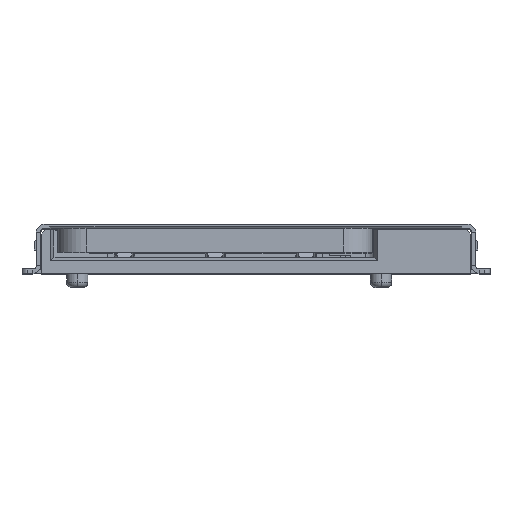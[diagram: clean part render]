
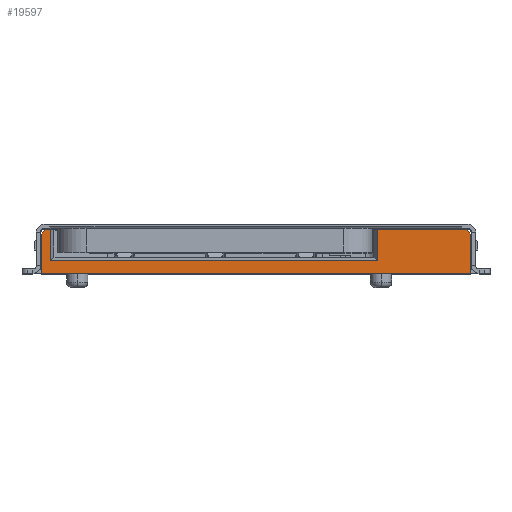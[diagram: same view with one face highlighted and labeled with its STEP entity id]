
A CAD part, top view. The second image highlights one B-rep face of the part: STEP entity #19597.
In plain terms, the highlighted planar face has unit normal (0, 0, 1).
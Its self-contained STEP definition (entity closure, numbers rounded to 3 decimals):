
#4512=DIRECTION('',(0.,1.,0.));
#4513=VECTOR('',#4512,1.097);
#4514=CARTESIAN_POINT('',(3.022,-0.463,6.75));
#4515=LINE('',#4514,#4513);
#4566=DIRECTION('',(-1.,0.,0.));
#4567=VECTOR('',#4566,12.);
#4568=CARTESIAN_POINT('',(3.022,-0.463,6.75));
#4569=LINE('',#4568,#4567);
#4570=DIRECTION('',(0.,1.,0.));
#4571=VECTOR('',#4570,1.097);
#4572=CARTESIAN_POINT('',(-8.978,-0.463,6.75));
#4573=LINE('',#4572,#4571);
#4574=DIRECTION('',(0.713,0.702,0.));
#4575=VECTOR('',#4574,0.175);
#4576=CARTESIAN_POINT('',(-8.978,0.634,6.75));
#4577=LINE('',#4576,#4575);
#4578=DIRECTION('',(1.,0.,0.));
#4579=VECTOR('',#4578,0.125);
#4580=CARTESIAN_POINT('',(-8.853,0.757,6.75));
#4581=LINE('',#4580,#4579);
#4582=DIRECTION('',(0.,-1.,0.));
#4583=VECTOR('',#4582,0.87);
#4584=CARTESIAN_POINT('',(-8.728,0.757,
6.75));
#4585=LINE('',#4584,#4583);
#4586=DIRECTION('',(1.,0.,0.));
#4587=VECTOR('',#4586,9.15);
#4588=CARTESIAN_POINT('',(-8.728,-0.113,
6.75));
#4589=LINE('',#4588,#4587);
#4590=DIRECTION('',(0.,1.,0.));
#4591=VECTOR('',#4590,0.87);
#4592=CARTESIAN_POINT('',(0.422,-0.113,
6.75));
#4593=LINE('',#4592,#4591);
#4594=DIRECTION('',(0.713,-0.702,0.));
#4595=VECTOR('',#4594,0.175);
#4596=CARTESIAN_POINT('',(2.897,0.757,6.75));
#4597=LINE('',#4596,#4595);
#4786=DIRECTION('',(-1.,0.,0.));
#4787=VECTOR('',#4786,2.475);
#4788=CARTESIAN_POINT('',(2.897,0.757,6.75));
#4789=LINE('',#4788,#4787);
#10315=CARTESIAN_POINT('',(-8.978,-0.463,6.75));
#10317=VERTEX_POINT('',#10315);
#10319=CARTESIAN_POINT('',(3.022,-0.463,6.75));
#10320=VERTEX_POINT('',#10319);
#10375=CARTESIAN_POINT('',(-8.978,0.634,6.75));
#10376=VERTEX_POINT('',#10375);
#10390=CARTESIAN_POINT('',(-8.728,0.757,
6.75));
#10392=VERTEX_POINT('',#10390);
#10419=CARTESIAN_POINT('',(0.422,-0.113,
6.75));
#10420=VERTEX_POINT('',#10419);
#10421=CARTESIAN_POINT('',(0.422,0.757,
6.75));
#10422=VERTEX_POINT('',#10421);
#10423=CARTESIAN_POINT('',(-8.728,-0.113,
6.75));
#10424=VERTEX_POINT('',#10423);
#10425=CARTESIAN_POINT('',(-8.853,0.757,6.75));
#10426=VERTEX_POINT('',#10425);
#10427=CARTESIAN_POINT('',(2.897,0.757,6.75));
#10428=VERTEX_POINT('',#10427);
#10429=CARTESIAN_POINT('',(3.022,0.634,6.75));
#10430=VERTEX_POINT('',#10429);
#19574=CARTESIAN_POINT('',(-2.978,0.147,6.75));
#19575=DIRECTION('',(0.,0.,1.));
#19576=DIRECTION('',(-1.,0.,0.));
#19577=AXIS2_PLACEMENT_3D('',#19574,#19575,#19576);
#19578=PLANE('',#19577);
#19579=ORIENTED_EDGE('',*,*,#13295,.T.);
#19580=ORIENTED_EDGE('',*,*,#13522,.T.);
#19582=ORIENTED_EDGE('',*,*,#19581,.T.);
#19583=ORIENTED_EDGE('',*,*,#13646,.T.);
#19585=ORIENTED_EDGE('',*,*,#19584,.T.);
#19587=ORIENTED_EDGE('',*,*,#19586,.T.);
#19589=ORIENTED_EDGE('',*,*,#19588,.T.);
#19591=ORIENTED_EDGE('',*,*,#19590,.F.);
#19593=ORIENTED_EDGE('',*,*,#19592,.T.);
#19594=ORIENTED_EDGE('',*,*,#19530,.F.);
#19595=EDGE_LOOP('',(#19579,#19580,#19582,#19583,#19585,#19587,#19589,#19591,
#19593,#19594));
#19596=FACE_OUTER_BOUND('',#19595,.F.);
#13295=EDGE_CURVE('',#10320,#10317,#4569,.T.);
#13522=EDGE_CURVE('',#10317,#10376,#4573,.T.);
#13646=EDGE_CURVE('',#10426,#10392,#4581,.T.);
#19530=EDGE_CURVE('',#10320,#10430,#4515,.T.);
#19581=EDGE_CURVE('',#10376,#10426,#4577,.T.);
#19584=EDGE_CURVE('',#10392,#10424,#4585,.T.);
#19586=EDGE_CURVE('',#10424,#10420,#4589,.T.);
#19588=EDGE_CURVE('',#10420,#10422,#4593,.T.);
#19590=EDGE_CURVE('',#10428,#10422,#4789,.T.);
#19592=EDGE_CURVE('',#10428,#10430,#4597,.T.);
#19597=ADVANCED_FACE('',(#19596),#19578,.T.);
